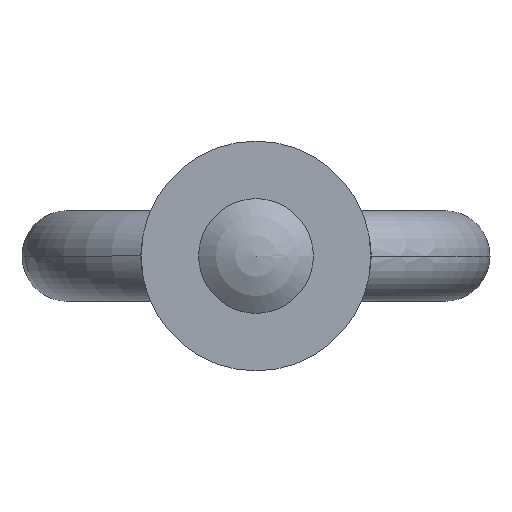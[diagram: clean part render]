
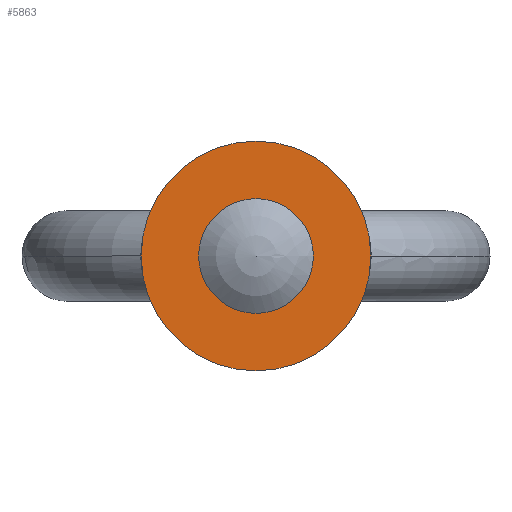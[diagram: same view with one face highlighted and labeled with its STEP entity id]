
A CAD part, front view. The second image highlights one B-rep face of the part: STEP entity #5863.
In plain terms, the highlighted planar face has unit normal (0, -1, 0).
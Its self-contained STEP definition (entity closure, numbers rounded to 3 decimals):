
#738 = CIRCLE ( 'NONE', #739, 8. ) ;
#739 = AXIS2_PLACEMENT_3D ( 'NONE', #740, #741, #742 ) ;
#740 = CARTESIAN_POINT ( 'NONE',  ( 0., -17., 0. ) ) ;
#741 = DIRECTION ( 'NONE',  ( 0., 1., 0. ) ) ;
#742 = DIRECTION ( 'NONE',  ( 0., 0., 1. ) ) ;
#752 = CIRCLE ( 'NONE', #753, 8. ) ;
#753 = AXIS2_PLACEMENT_3D ( 'NONE', #754, #755, #756 ) ;
#754 = CARTESIAN_POINT ( 'NONE',  ( 0., -17., 0. ) ) ;
#755 = DIRECTION ( 'NONE',  ( 0., 1., 0. ) ) ;
#756 = DIRECTION ( 'NONE',  ( 0., 0., 1. ) ) ;
#1531 = ORIENTED_EDGE ( 'NONE', *, *, #4311, .F. ) ;
#1596 = VERTEX_POINT ( 'NONE', #2524 ) ;
#1696 = VERTEX_POINT ( 'NONE', #2592 ) ;
#2108 = CIRCLE ( 'NONE', #2109, 3.5 ) ;
#2109 = AXIS2_PLACEMENT_3D ( 'NONE', #2110, #2111, #2112 ) ;
#2110 = CARTESIAN_POINT ( 'NONE',  ( 0., -17., 0. ) ) ;
#2111 = DIRECTION ( 'NONE',  ( 0., 1., 0. ) ) ;
#2112 = DIRECTION ( 'NONE',  ( 0., 0., -1. ) ) ;
#2524 = CARTESIAN_POINT ( 'NONE',  ( 0., -17., 8. ) ) ;
#2564 = CARTESIAN_POINT ( 'NONE',  ( 0., -17., -3.5 ) ) ;
#2592 = CARTESIAN_POINT ( 'NONE',  ( 0., -17., 3.5 ) ) ;
#3878 = CIRCLE ( 'NONE', #3879, 3.5 ) ;
#3879 = AXIS2_PLACEMENT_3D ( 'NONE', #3880, #3881, #3882 ) ;
#3880 = CARTESIAN_POINT ( 'NONE',  ( 0., -17., 0. ) ) ;
#3881 = DIRECTION ( 'NONE',  ( 0., 1., 0. ) ) ;
#3882 = DIRECTION ( 'NONE',  ( 0., 0., -1. ) ) ;
#3889 = FACE_BOUND ( 'NONE', #5857, .T. ) ;
#3890 = FACE_OUTER_BOUND ( 'NONE', #5827, .T. ) ;
#3891 = PLANE ( 'NONE',  #3892 ) ;
#3892 = AXIS2_PLACEMENT_3D ( 'NONE', #3893, #3894, #3895 ) ;
#3893 = CARTESIAN_POINT ( 'NONE',  ( -8., -17., 0. ) ) ;
#3894 = DIRECTION ( 'NONE',  ( 0., -1., 0. ) ) ;
#3895 = DIRECTION ( 'NONE',  ( 0., 0., -1. ) ) ;
#4117 = VERTEX_POINT ( 'NONE', #5198 ) ;
#4311 = EDGE_CURVE ( 'NONE', #1596, #4117, #752, .T. ) ;
#5198 = CARTESIAN_POINT ( 'NONE',  ( 0., -17., -8. ) ) ;
#5729 = VERTEX_POINT ( 'NONE', #2564 ) ;
#5733 = EDGE_CURVE ( 'NONE', #5729, #1696, #3878, .T. ) ;
#5814 = ORIENTED_EDGE ( 'NONE', *, *, #5868, .F. ) ;
#5827 = EDGE_LOOP ( 'NONE', ( #5814, #1531 ) ) ;
#5832 = EDGE_CURVE ( 'NONE', #1696, #5729, #2108, .T. ) ;
#5838 = ORIENTED_EDGE ( 'NONE', *, *, #5832, .T. ) ;
#5846 = ORIENTED_EDGE ( 'NONE', *, *, #5733, .T. ) ;
#5857 = EDGE_LOOP ( 'NONE', ( #5846, #5838 ) ) ;
#5863 = ADVANCED_FACE ( 'NONE', ( #3889, #3890 ), #3891, .T. ) ;
#5868 = EDGE_CURVE ( 'NONE', #4117, #1596, #738, .T. ) ;
